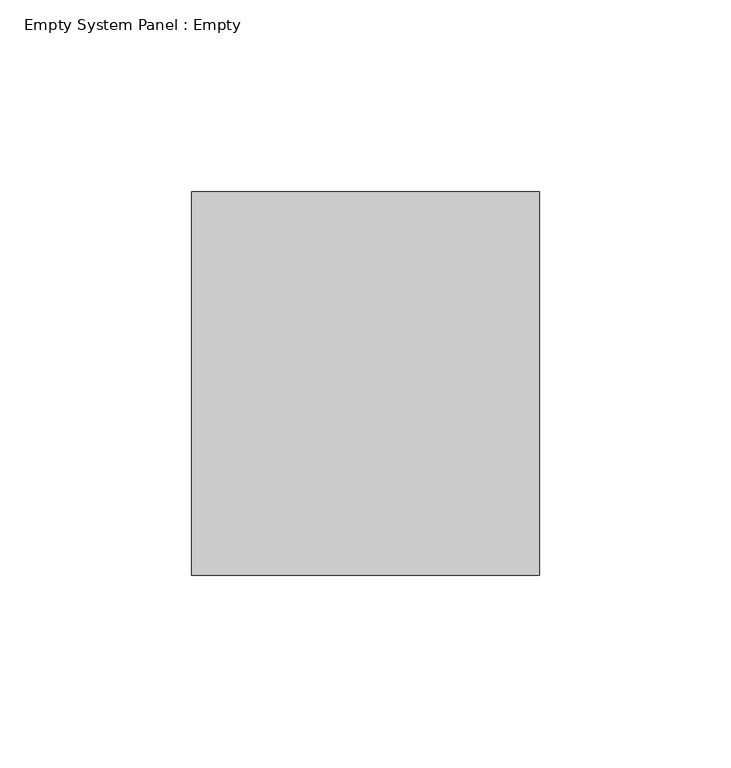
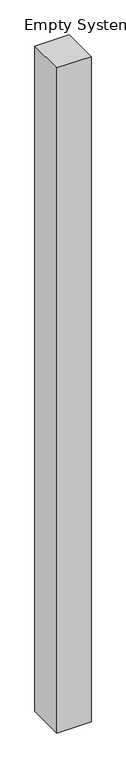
"""IFC4 building model written with IfcOpenShell, lengths in millimetres: plate geometry, Empty System Panel : Empty."""

from ifc_helpers import new_model, si_unit, origin, origin_with_axes, place, context, project, spatial, polyline, outline, extrude, source, transform, mapped, element, save


def empty_system_panel_empty_35289bfe(model_context):
    return source(origin(), model_context, "Body", "SweptSolid", [
        extrude(outline(polyline([(45.3851013, 50.0), (-45.3851013, 50.0), (-45.3851013, 150.0), (45.3851013, 150.0), (45.3851013, 50.0)])), origin_with_axes(), (0.0, 0.0, 1.0), 1860.0),
    ])


if __name__ == "__main__":
    model = new_model("IFC4")
    model_context = context("Model", 3, world=origin())
    ifc_project = project(units=[si_unit("LENGTHUNIT", "METRE", prefix="MILLI")], contexts=[model_context])
    site = spatial("IfcSite", under=ifc_project)
    building = spatial("IfcBuilding", under=site)
    placement = place(None, origin())
    empty_system_panel_empty_shape = empty_system_panel_empty_35289bfe(model_context)
    element("IfcPlate", 1, ObjectType="Empty System Panel : Empty", at=placement, inside=building, context=model_context, shape_type="MappedRepresentation", body=[
        mapped(empty_system_panel_empty_shape, transform((0.0, 0.0, 0.0), x_axis=(1.0, 0.0, 0.0), y_axis=(0.0, 1.0, 0.0), z_axis=(0.0, 0.0, 1.0))),
    ])
    save(model, "model.ifc")
